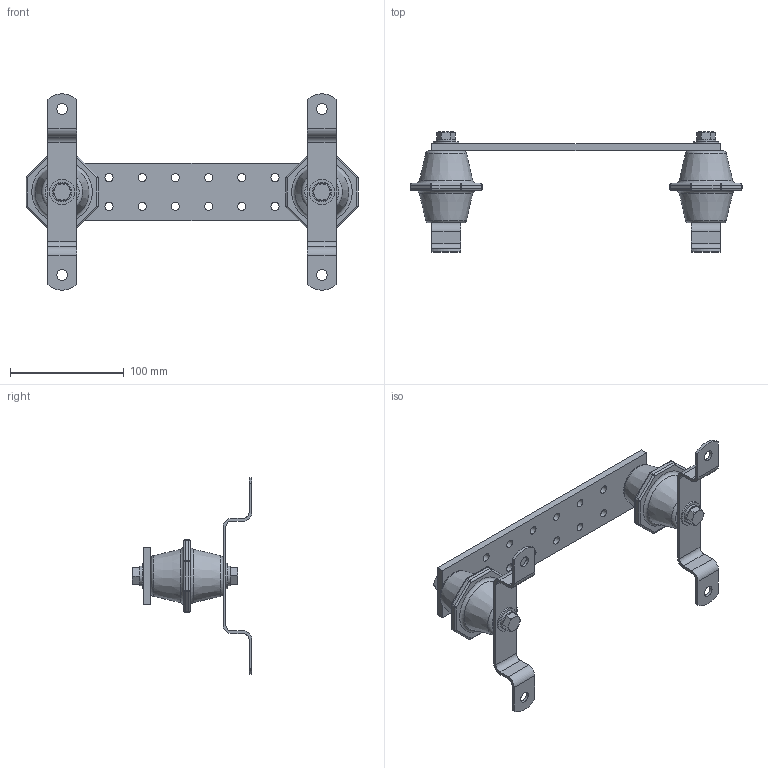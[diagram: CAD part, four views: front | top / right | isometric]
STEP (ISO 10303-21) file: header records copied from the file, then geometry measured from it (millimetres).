
FILE_DESCRIPTION(/* description */ ('Unknown'),/* implementation_level */ '2;1');
FILE_NAME(/* name */ 'BUSBAR2X10',/* time_stamp */ '2020-10-14T09:41:05-04:00',/* author */ ('Unknown'),/* organization */ ('Unknown'),/* preprocessor_version */ 'ST-DEVELOPER v16.7',/* originating_system */ 'Solid Edge',/* authorisation */ 'Unknown');
FILE_SCHEMA (('AUTOMOTIVE_DESIGN {1 0 10303 214 3 1 1}'));
Length unit declared in the file: millimetre
Products named in the file (10): BUSBAR2X10; 0.375 flatwasher; 0.375 Lockwasher; Insolater; Insolator; Insolator Thread Insert; Bracket; 0.375X16X0.750 HEX BOLT; 0.375X16X0.625 HEX BOLT; 2in Ground Bar
Assembly tree (20 placements, depth 3):
  BUSBAR2X10
    0.375 flatwasher  x4
    0.375 Lockwasher  x4
    Insolater  x2
      Insolator
      Insolator Thread Insert
    Bracket  x2
    0.375X16X0.750 HEX BOLT  x2
    0.375X16X0.625 HEX BOLT  x2
    2in Ground Bar
Bounding box: 292.1 x 105.44 x 172.6 mm (x, y, z)
Volume: 310007.1 mm3; surface area: 99548.1 mm2
Topology: 21 solids, 21 shells, 334 faces, 712 edges, 432 vertices
Faces by surface type: plane 126, cylinder 124, cone 36, sphere 32, torus 8, bspline 8
Full cylindrical faces by diameter (mm): 7.144 x12, 7.798 x4, 9.525 x6, 10.312 x4, 12.7 x8, 14.287 x2, 22.225 x4
Entity records: 10903 total; most frequent: CARTESIAN_POINT 7106, DIRECTION 786, ORIENTED_EDGE 640, AXIS2_PLACEMENT_3D 327, EDGE_CURVE 320, FACE_BOUND 237, EDGE_LOOP 236, VERTEX_POINT 213
